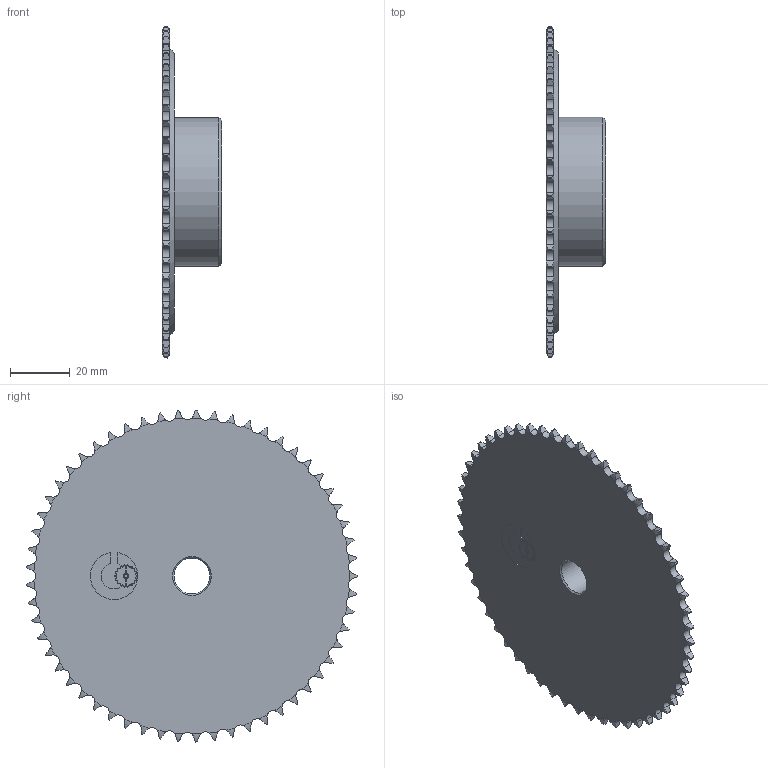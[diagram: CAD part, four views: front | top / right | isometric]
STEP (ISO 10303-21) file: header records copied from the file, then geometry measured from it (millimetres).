
FILE_DESCRIPTION(/* description */ (''),/* implementation_level */ '2;1');
FILE_NAME(/* name */ 'W:\DISEGNI LUCA SALVATAGGIO LOCALE\disegni Fabio Colombo\DISEGNI CATALOGO PIGNONI\PIGNONI ISO606\02- DIN8187 6x2.8\DIN8187 6x2.8 -3D\10106057.stp',/* time_stamp */ '2022-11-17T14:29:44+01:00',/* author */ ('luca.leone'),/* organization */ (''),/* preprocessor_version */ 'ST-DEVELOPER v19',/* originating_system */ 'Autodesk Inventor 2023',/* authorisation */ '');
FILE_SCHEMA (('AUTOMOTIVE_DESIGN { 1 0 10303 214 3 1 1 }'));
Length unit declared in the file: millimetre
Products named in the file (1): 10106057
Bounding box: 20 x 111.33 x 111.37 mm (x, y, z)
Volume: 62257.8 mm3; surface area: 22367.8 mm2
Topology: 1 solids, 1 shells, 444 faces, 1306 edges, 869 vertices
Faces by surface type: cylinder 272, torus 114, plane 54, cone 4
Full cylindrical faces by diameter (mm): 1.312 x1, 12 x1, 50 x1
Entity records: 16104 total; most frequent: CARTESIAN_POINT 4704, ORIENTED_EDGE 2612, DIRECTION 2175, EDGE_CURVE 1306, AXIS2_PLACEMENT_3D 880, VERTEX_POINT 869, B_SPLINE_CURVE_WITH_KNOTS 456, EDGE_LOOP 451
